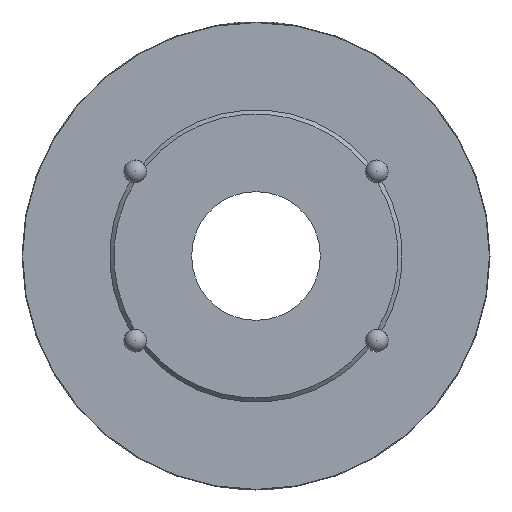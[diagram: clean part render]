
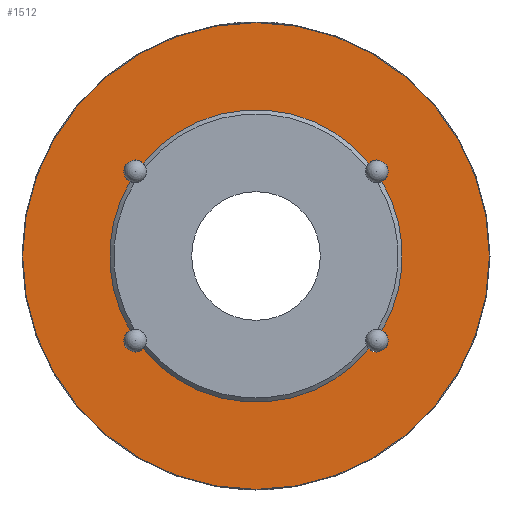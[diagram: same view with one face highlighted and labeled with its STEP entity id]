
A CAD part, left-side view. The second image highlights one B-rep face of the part: STEP entity #1512.
In plain terms, the highlighted planar face has unit normal (-1, 0, 0).
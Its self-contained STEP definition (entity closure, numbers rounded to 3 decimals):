
#52=PLANE('',#1635);
#194=CIRCLE('',#1622,25.);
#196=CIRCLE('',#1625,25.);
#197=CIRCLE('',#1627,25.);
#199=CIRCLE('',#1630,25.);
#201=CIRCLE('',#1633,39.9);
#203=CIRCLE('',#1636,1.96);
#204=CIRCLE('',#1637,1.96);
#205=CIRCLE('',#1638,1.96);
#206=CIRCLE('',#1639,1.96);
#432=ORIENTED_EDGE('',*,*,#827,.F.);
#433=ORIENTED_EDGE('',*,*,#842,.T.);
#434=ORIENTED_EDGE('',*,*,#783,.F.);
#435=ORIENTED_EDGE('',*,*,#843,.T.);
#436=ORIENTED_EDGE('',*,*,#795,.F.);
#437=ORIENTED_EDGE('',*,*,#844,.T.);
#438=ORIENTED_EDGE('',*,*,#767,.F.);
#439=ORIENTED_EDGE('',*,*,#845,.T.);
#440=ORIENTED_EDGE('',*,*,#840,.T.);
#767=EDGE_CURVE('',#981,#958,#194,.T.);
#783=EDGE_CURVE('',#997,#998,#196,.T.);
#795=EDGE_CURVE('',#1009,#1010,#197,.T.);
#827=EDGE_CURVE('',#1041,#1042,#199,.T.);
#840=EDGE_CURVE('',#1054,#1054,#201,.T.);
#842=EDGE_CURVE('',#1041,#998,#203,.T.);
#843=EDGE_CURVE('',#997,#1010,#204,.T.);
#844=EDGE_CURVE('',#1009,#958,#205,.T.);
#845=EDGE_CURVE('',#981,#1042,#206,.T.);
#958=VERTEX_POINT('',#2191);
#981=VERTEX_POINT('',#2266);
#997=VERTEX_POINT('',#2317);
#998=VERTEX_POINT('',#2319);
#1009=VERTEX_POINT('',#2357);
#1010=VERTEX_POINT('',#2359);
#1041=VERTEX_POINT('',#2464);
#1042=VERTEX_POINT('',#2466);
#1054=VERTEX_POINT('',#2507);
#1242=EDGE_LOOP('',(#432,#433,#434,#435,#436,#437,#438,#439));
#1243=EDGE_LOOP('',(#440));
#1368=FACE_BOUND('',#1242,.T.);
#1369=FACE_BOUND('',#1243,.T.);
#1512=ADVANCED_FACE('',(#1368,#1369),#52,.F.);
#1622=AXIS2_PLACEMENT_3D('',#2267,#1820,#1821);
#1625=AXIS2_PLACEMENT_3D('',#2318,#1834,#1835);
#1627=AXIS2_PLACEMENT_3D('',#2358,#1844,#1845);
#1630=AXIS2_PLACEMENT_3D('',#2465,#1866,#1867);
#1633=AXIS2_PLACEMENT_3D('',#2506,#1878,#1879);
#1635=AXIS2_PLACEMENT_3D('',#2510,#1882,#1883);
#1636=AXIS2_PLACEMENT_3D('',#2511,#1884,#1885);
#1637=AXIS2_PLACEMENT_3D('',#2512,#1886,#1887);
#1638=AXIS2_PLACEMENT_3D('',#2513,#1888,#1889);
#1639=AXIS2_PLACEMENT_3D('',#2514,#1890,#1891);
#1820=DIRECTION('',(-1.,0.,0.));
#1821=DIRECTION('',(0.,0.,1.));
#1834=DIRECTION('',(-1.,0.,0.));
#1835=DIRECTION('',(0.,0.,1.));
#1844=DIRECTION('',(-1.,0.,0.));
#1845=DIRECTION('',(0.,0.,1.));
#1866=DIRECTION('',(-1.,0.,0.));
#1867=DIRECTION('',(0.,0.,1.));
#1878=DIRECTION('',(-1.,0.,0.));
#1879=DIRECTION('',(0.,0.,1.));
#1882=DIRECTION('',(1.,0.,0.));
#1883=DIRECTION('',(0.,0.,-1.));
#1884=DIRECTION('',(1.,0.,0.));
#1885=DIRECTION('',(0.,-1.,0.));
#1886=DIRECTION('',(1.,0.,0.));
#1887=DIRECTION('',(0.,1.,0.));
#1888=DIRECTION('',(1.,0.,0.));
#1889=DIRECTION('',(0.,1.,0.));
#1890=DIRECTION('',(1.,0.,0.));
#1891=DIRECTION('',(0.,-1.,0.));
#2191=CARTESIAN_POINT('',(-62.5,-19.305,-15.885));
#2266=CARTESIAN_POINT('',(-62.5,19.305,-15.885));
#2267=CARTESIAN_POINT('',(-62.5,0.,0.));
#2317=CARTESIAN_POINT('',(-62.5,-19.305,15.885));
#2318=CARTESIAN_POINT('',(-62.5,0.,0.));
#2319=CARTESIAN_POINT('',(-62.5,19.305,15.885));
#2357=CARTESIAN_POINT('',(-62.5,-21.529,-12.708));
#2358=CARTESIAN_POINT('',(-62.5,0.,0.));
#2359=CARTESIAN_POINT('',(-62.5,-21.529,12.708));
#2464=CARTESIAN_POINT('',(-62.5,21.529,12.708));
#2465=CARTESIAN_POINT('',(-62.5,0.,0.));
#2466=CARTESIAN_POINT('',(-62.5,21.529,-12.708));
#2506=CARTESIAN_POINT('',(-62.5,0.,0.));
#2507=CARTESIAN_POINT('',(-62.5,0.,39.9));
#2510=CARTESIAN_POINT('',(-62.5,39.9,0.));
#2511=CARTESIAN_POINT('',(-62.5,20.651,14.46));
#2512=CARTESIAN_POINT('',(-62.5,-20.651,14.46));
#2513=CARTESIAN_POINT('',(-62.5,-20.651,-14.46));
#2514=CARTESIAN_POINT('',(-62.5,20.651,-14.46));
